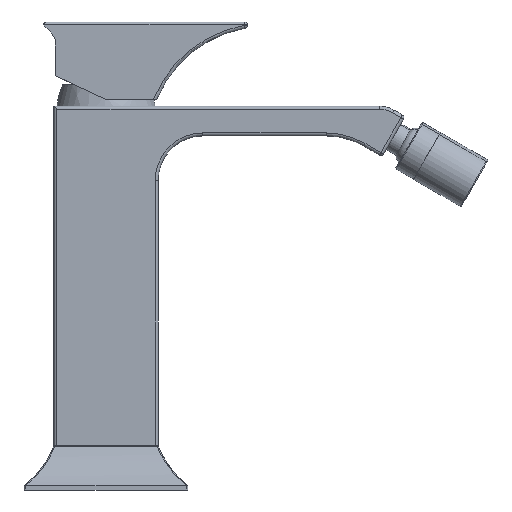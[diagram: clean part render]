
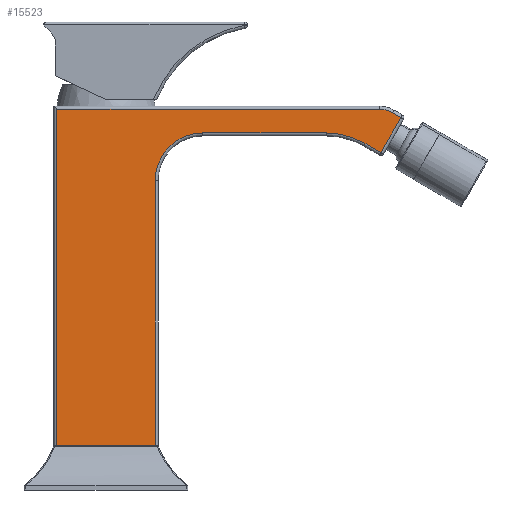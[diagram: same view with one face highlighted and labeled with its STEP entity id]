
A CAD part, front view. The second image highlights one B-rep face of the part: STEP entity #15523.
In plain terms, the highlighted planar face has unit normal (0, -1, 0).
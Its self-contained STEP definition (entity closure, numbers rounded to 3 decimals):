
#44 = VERTEX_POINT ( 'NONE', #15125 ) ;
#190 = DIRECTION ( 'NONE',  ( 0., 1., 0. ) ) ;
#304 = CARTESIAN_POINT ( 'NONE',  ( -16.5, -17.5, 0. ) ) ;
#344 = LINE ( 'NONE', #3459, #17076 ) ;
#349 = CARTESIAN_POINT ( 'NONE',  ( 96.321, -17.5, 111.794 ) ) ;
#425 = CARTESIAN_POINT ( 'NONE',  ( 32.5, -17.5, 89. ) ) ;
#471 = EDGE_LOOP ( 'NONE', ( #12716, #15977, #5489, #7762, #11784, #11969, #5775, #1058, #8020, #18863, #9476 ) ) ;
#650 = CARTESIAN_POINT ( 'NONE',  ( -16.5, -17.5, 113. ) ) ;
#1058 = ORIENTED_EDGE ( 'NONE', *, *, #8358, .T. ) ;
#1072 = CARTESIAN_POINT ( 'NONE',  ( 16.5, -17.5, 0. ) ) ;
#1163 = EDGE_CURVE ( 'NONE', #4445, #7018, #13534, .T. ) ;
#1174 = EDGE_CURVE ( 'NONE', #9382, #15032, #10551, .T. ) ;
#1221 = DIRECTION ( 'NONE',  ( 0., 1., 0. ) ) ;
#1484 = VERTEX_POINT ( 'NONE', #650 ) ;
#2909 = FACE_OUTER_BOUND ( 'NONE', #471, .T. ) ;
#3178 = CARTESIAN_POINT ( 'NONE',  ( -16.5, -17.5, 114. ) ) ;
#3211 = CARTESIAN_POINT ( 'NONE',  ( 91.821, -17.5, 113. ) ) ;
#3459 = CARTESIAN_POINT ( 'NONE',  ( 36.25, -17.5, 146.476 ) ) ;
#4031 = CARTESIAN_POINT ( 'NONE',  ( 91.821, -17.5, 104. ) ) ;
#4445 = VERTEX_POINT ( 'NONE', #6845 ) ;
#4600 = AXIS2_PLACEMENT_3D ( 'NONE', #4031, #12918, #14015 ) ;
#4819 = DIRECTION ( 'NONE',  ( 0., 0., -1. ) ) ;
#4943 = EDGE_CURVE ( 'NONE', #5026, #13244, #11233, .T. ) ;
#5026 = VERTEX_POINT ( 'NONE', #1072 ) ;
#5379 = DIRECTION ( 'NONE',  ( 0.5, 0., 0.866 ) ) ;
#5489 = ORIENTED_EDGE ( 'NONE', *, *, #8142, .T. ) ;
#5775 = ORIENTED_EDGE ( 'NONE', *, *, #18735, .T. ) ;
#6032 = PLANE ( 'NONE',  #9538 ) ;
#6279 = VERTEX_POINT ( 'NONE', #9261 ) ;
#6483 = CARTESIAN_POINT ( 'NONE',  ( 93.226, -17.5, 97.938 ) ) ;
#6648 = VERTEX_POINT ( 'NONE', #10416 ) ;
#6845 = CARTESIAN_POINT ( 'NONE',  ( 87.028, -17.5, 101.517 ) ) ;
#7018 = VERTEX_POINT ( 'NONE', #13228 ) ;
#7381 = AXIS2_PLACEMENT_3D ( 'NONE', #11749, #1221, #17797 ) ;
#7411 = DIRECTION ( 'NONE',  ( -1., 0., 0. ) ) ;
#7614 = LINE ( 'NONE', #14957, #16448 ) ;
#7762 = ORIENTED_EDGE ( 'NONE', *, *, #15850, .T. ) ;
#8020 = ORIENTED_EDGE ( 'NONE', *, *, #1163, .T. ) ;
#8142 = EDGE_CURVE ( 'NONE', #1484, #14535, #15199, .T. ) ;
#8166 = VECTOR ( 'NONE', #5379, 1000. ) ;
#8227 = LINE ( 'NONE', #12826, #8166 ) ;
#8358 = EDGE_CURVE ( 'NONE', #6648, #4445, #17655, .T. ) ;
#8513 = EDGE_CURVE ( 'NONE', #13244, #44, #13331, .T. ) ;
#8868 = CARTESIAN_POINT ( 'NONE',  ( 17.5, -17.5, 114. ) ) ;
#9261 = CARTESIAN_POINT ( 'NONE',  ( 99.134, -17.5, 110.17 ) ) ;
#9382 = VERTEX_POINT ( 'NONE', #3211 ) ;
#9411 = DIRECTION ( 'NONE',  ( 0., 1., 0. ) ) ;
#9476 = ORIENTED_EDGE ( 'NONE', *, *, #9735, .T. ) ;
#9502 = DIRECTION ( 'NONE',  ( -1., 0., 0. ) ) ;
#9538 = AXIS2_PLACEMENT_3D ( 'NONE', #8868, #190, #7411 ) ;
#9735 = EDGE_CURVE ( 'NONE', #6279, #15032, #344, .T. ) ;
#10416 = CARTESIAN_POINT ( 'NONE',  ( 74.028, -17.5, 105. ) ) ;
#10551 = CIRCLE ( 'NONE', #4600, 9. ) ;
#10785 = DIRECTION ( 'NONE',  ( -0.866, 0., 0.5 ) ) ;
#11103 = VECTOR ( 'NONE', #14444, 1000. ) ;
#11233 = LINE ( 'NONE', #18742, #13917 ) ;
#11399 = DIRECTION ( 'NONE',  ( 1., 0., 0. ) ) ;
#11416 = CARTESIAN_POINT ( 'NONE',  ( 17.5, -17.5, 0. ) ) ;
#11479 = VECTOR ( 'NONE', #15290, 1000. ) ;
#11749 = CARTESIAN_POINT ( 'NONE',  ( 74.028, -17.5, 79. ) ) ;
#11784 = ORIENTED_EDGE ( 'NONE', *, *, #4943, .T. ) ;
#11969 = ORIENTED_EDGE ( 'NONE', *, *, #8513, .T. ) ;
#12408 = AXIS2_PLACEMENT_3D ( 'NONE', #425, #9411, #9502 ) ;
#12716 = ORIENTED_EDGE ( 'NONE', *, *, #1174, .F. ) ;
#12769 = EDGE_CURVE ( 'NONE', #7018, #6279, #8227, .T. ) ;
#12826 = CARTESIAN_POINT ( 'NONE',  ( 80.384, -17.5, 77.694 ) ) ;
#12867 = LINE ( 'NONE', #13060, #15890 ) ;
#12918 = DIRECTION ( 'NONE',  ( 0., 1., 0. ) ) ;
#13060 = CARTESIAN_POINT ( 'NONE',  ( 17.5, -17.5, 105. ) ) ;
#13228 = CARTESIAN_POINT ( 'NONE',  ( 92.36, -17.5, 98.438 ) ) ;
#13244 = VERTEX_POINT ( 'NONE', #15908 ) ;
#13331 = CIRCLE ( 'NONE', #12408, 16. ) ;
#13534 = LINE ( 'NONE', #6483, #11479 ) ;
#13917 = VECTOR ( 'NONE', #17175, 1000. ) ;
#14015 = DIRECTION ( 'NONE',  ( -1., 0., 0. ) ) ;
#14444 = DIRECTION ( 'NONE',  ( 1., 0., 0. ) ) ;
#14535 = VERTEX_POINT ( 'NONE', #304 ) ;
#14957 = CARTESIAN_POINT ( 'NONE',  ( -17.5, -17.5, 113. ) ) ;
#15032 = VERTEX_POINT ( 'NONE', #349 ) ;
#15125 = CARTESIAN_POINT ( 'NONE',  ( 32.5, -17.5, 105. ) ) ;
#15199 = LINE ( 'NONE', #3178, #16418 ) ;
#15290 = DIRECTION ( 'NONE',  ( 0.866, 0., -0.5 ) ) ;
#15523 = ADVANCED_FACE ( 'NONE', ( #2909 ), #6032, .F. ) ;
#15850 = EDGE_CURVE ( 'NONE', #14535, #5026, #18831, .T. ) ;
#15890 = VECTOR ( 'NONE', #11399, 1000. ) ;
#15908 = CARTESIAN_POINT ( 'NONE',  ( 16.5, -17.5, 89. ) ) ;
#15977 = ORIENTED_EDGE ( 'NONE', *, *, #16867, .T. ) ;
#16418 = VECTOR ( 'NONE', #4819, 1000. ) ;
#16448 = VECTOR ( 'NONE', #18072, 1000. ) ;
#16867 = EDGE_CURVE ( 'NONE', #9382, #1484, #7614, .T. ) ;
#17076 = VECTOR ( 'NONE', #10785, 1000. ) ;
#17175 = DIRECTION ( 'NONE',  ( 0., 0., 1. ) ) ;
#17655 = CIRCLE ( 'NONE', #7381, 26. ) ;
#17797 = DIRECTION ( 'NONE',  ( -1., 0., 0. ) ) ;
#18072 = DIRECTION ( 'NONE',  ( -1., 0., 0. ) ) ;
#18735 = EDGE_CURVE ( 'NONE', #44, #6648, #12867, .T. ) ;
#18742 = CARTESIAN_POINT ( 'NONE',  ( 16.5, -17.5, 114. ) ) ;
#18831 = LINE ( 'NONE', #11416, #11103 ) ;
#18863 = ORIENTED_EDGE ( 'NONE', *, *, #12769, .T. ) ;
